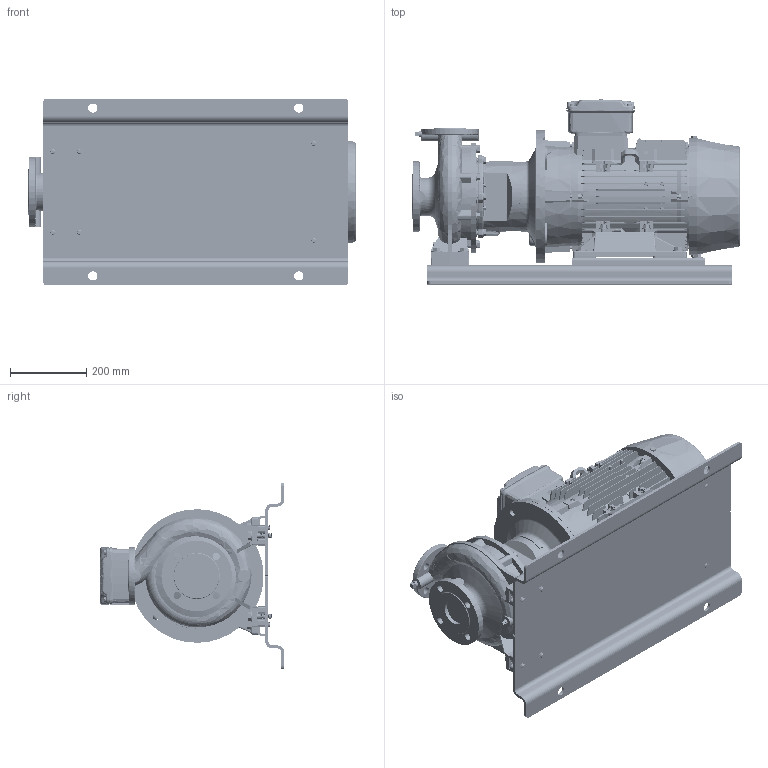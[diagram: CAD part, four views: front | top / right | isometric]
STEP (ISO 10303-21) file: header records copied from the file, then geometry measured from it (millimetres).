
FILE_DESCRIPTION (( 'STEP AP214' ), '1' );
FILE_NAME ('GSD2 40-200_11.0, 15.0 & 18.5_(160ML)_W21_BP.STEP', '2024-04-05T02:43:31', ( '' ), ( '' ), 'SwSTEP 2.0', 'SolidWorks 2019', '' );
FILE_SCHEMA (( 'AUTOMOTIVE_DESIGN' ));
Length unit declared in the file: inch
Products named in the file (20): Parametric bolt and washer_SFT-A309B-2.STEP; Parametric bolt and washer_SFT-A309B.STEP; N5S3 GSDA-533 F11832924-00.STEP; Parametric bolt_SFT-A301B.STEP; Parametric bolt and washer_SFT-A301B-2.STEP; Parametric bolt and washer_SFT-A301B-4.STEP; 40-200-160M_L.STEP; Parametric bolt and washer_SFT-A301B-3.STEP; 160M_L_ALIE3W21T_B35.STEP; GSD2  40-200_11.0, 15.0 & 18.5_(160ML)_W21_BP; Parametric bolt and washer_SFT-A309B-1.STEP; Parametric bolt and washer_SFT-A301B-1.STEP; Parametric bolt and washer_SFT-A301B-5.STEP; GSD2 40-200_15KW.STEP; Parametric bolt_SFT-A309B.STEP; Parametric bolt and washer_SFT-A301B.STEP; CGS11-5301_2_3_4_5_CGS11-5301.STEP; 210_254 x 20 - 271472113.STEP; Parametric Flat Washer_M12.STEP; Parametric bolt and washer_SFT-A309B-3.STEP
Assembly tree (38 placements, depth 4):
  GSD2  40-200_11.0, 15.0 & 18.5_(160ML)_W21_BP
    GSD2 40-200_15KW.STEP
      Parametric bolt and washer_SFT-A309B.STEP
        Parametric bolt_SFT-A309B.STEP
        Parametric Flat Washer_M12.STEP
      Parametric bolt and washer_SFT-A309B-1.STEP
        Parametric bolt_SFT-A309B.STEP
        Parametric Flat Washer_M12.STEP
      Parametric bolt and washer_SFT-A309B-2.STEP
        Parametric bolt_SFT-A309B.STEP
        Parametric Flat Washer_M12.STEP
      Parametric bolt and washer_SFT-A309B-3.STEP
        Parametric bolt_SFT-A309B.STEP
        Parametric Flat Washer_M12.STEP
      Parametric bolt and washer_SFT-A301B.STEP
        Parametric bolt_SFT-A301B.STEP
        Parametric Flat Washer_M12.STEP
      Parametric bolt and washer_SFT-A301B-1.STEP
        Parametric bolt_SFT-A301B.STEP
        Parametric Flat Washer_M12.STEP
      Parametric bolt and washer_SFT-A301B-2.STEP
        Parametric bolt_SFT-A301B.STEP
        Parametric Flat Washer_M12.STEP
      Parametric bolt and washer_SFT-A301B-3.STEP
        Parametric bolt_SFT-A301B.STEP
        Parametric Flat Washer_M12.STEP
      Parametric bolt and washer_SFT-A301B-4.STEP
        Parametric bolt_SFT-A301B.STEP
        Parametric Flat Washer_M12.STEP
      Parametric bolt and washer_SFT-A301B-5.STEP
        Parametric bolt_SFT-A301B.STEP
        Parametric Flat Washer_M12.STEP
      40-200-160M_L.STEP
      N5S3 GSDA-533 F11832924-00.STEP
      CGS11-5301_2_3_4_5_CGS11-5301.STEP  x2
      210_254 x 20 - 271472113.STEP  x2
      160M_L_ALIE3W21T_B35.STEP
Bounding box: 860.3 x 484.53 x 490 mm (x, y, z)
Volume: 47491245.3 mm3; surface area: 3780023.7 mm2
Topology: 65 solids, 71 shells, 6452 faces, 16813 edges, 10933 vertices
Faces by surface type: plane 3853, cylinder 1316, cone 575, bspline 436, torus 254, sphere 18
Entity records: 227417 total; most frequent: CARTESIAN_POINT 86233, ORIENTED_EDGE 30806, DIRECTION 26253, EDGE_CURVE 15403, VERTEX_POINT 10037, LINE 9781, VECTOR 9781, AXIS2_PLACEMENT_3D 8236
